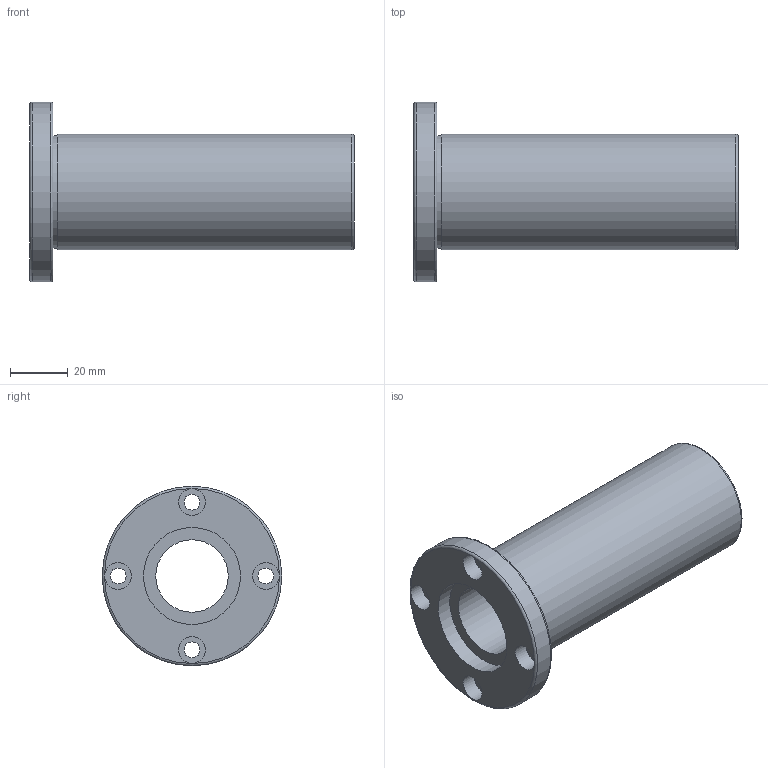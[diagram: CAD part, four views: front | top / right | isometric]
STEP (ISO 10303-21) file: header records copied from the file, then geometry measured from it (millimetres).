
FILE_DESCRIPTION( ( 'Unknown' ), '1' );
FILE_NAME( 'D:/累诀/己绕皋墨飘肺葱胶/11-04-06_档搁累己/01_府聪绢何教/LMF L/LMF 25L.stp', 'Unknown', ( 'Unknown' ), ( 'Unknown' ), 'PSStep 11.0', 'Unknown', ' ' );
FILE_SCHEMA( ( 'AUTOMOTIVE_DESIGN { 1 0 10303 214 1 1 1 1 }' ) );
Length unit declared in the file: millimetre
Products named in the file (1): 1
Bounding box: 112 x 62 x 62 mm (x, y, z)
Volume: 93644.6 mm3; surface area: 29334.7 mm2
Topology: 1 solids, 1 shells, 27 faces, 52 edges, 35 vertices
Faces by surface type: cylinder 14, plane 10, torus 3
Full cylindrical faces by diameter (mm): 5.5 x4, 9.2 x4, 25 x1, 33.5 x2, 39 x1, 40 x1, 62 x1
Entity records: 836 total; most frequent: DIRECTION 118, CARTESIAN_POINT 90, EDGE_LOOP 62, ORIENTED_EDGE 62, AXIS2_PLACEMENT_3D 59, FACE_OUTER_BOUND 44, EDGE_CURVE 31, VERTEX_POINT 31
